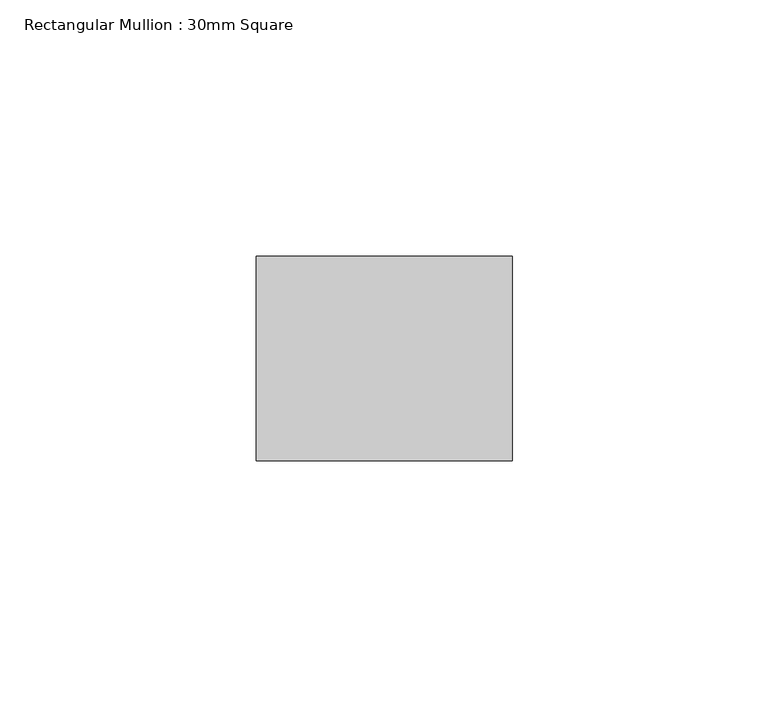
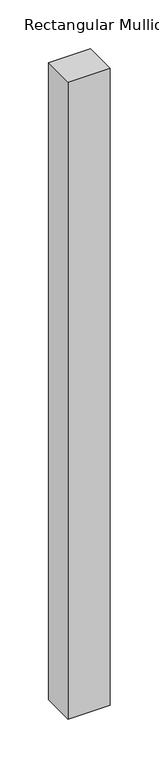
"""IFC4 building model written with IfcOpenShell, lengths in millimetres: member geometry, Rectangular Mullion : 30mm Square."""

import ifcopenshell
import ifcopenshell.guid

model = None  # the IFC model being written
_history = None  # IfcOwnerHistory: only IFC2X3 demands one
_inside = {}  # id of a spatial element -> (the spatial element, [elements in it])
_under = {}  # id of a project, library or spatial element -> (it, [spatial elements below it])
_declared = {}  # id of a project -> (the project, [libraries it declares])
_typed = {}  # id of a type object -> (the type object, [elements of that type])
_made_of = {}  # id of a material, layer set ... -> (it, [elements and type objects made of it])


def new_model(schema):
    """Start an empty IFC model of exactly this schema.

    Asked for "IFC4X3", IfcOpenShell would pick the latest addendum, in which some entities
    have other attributes; the version numbers below select the first issue.
    IFC2X3 requires an IfcOwnerHistory on every rooted entity: one is made here for all.
    """
    global model, _history
    if schema == "IFC4X3":
        model = ifcopenshell.file(schema_version=(4, 3, 0, 0))
    else:
        model = ifcopenshell.file(schema=schema)
    _inside.clear()
    _under.clear()
    _declared.clear()
    _typed.clear()
    _made_of.clear()
    _history = None
    if model.schema == "IFC2X3":
        org = make("IfcOrganization", Name="unknown")
        user = make(
            "IfcPersonAndOrganization",
            ThePerson=make("IfcPerson", FamilyName="unknown"),
            TheOrganization=org,
        )
        app = make(
            "IfcApplication",
            ApplicationDeveloper=org,
            Version="unknown",
            ApplicationFullName="unknown",
            ApplicationIdentifier="unknown",
        )
        _history = make(
            "IfcOwnerHistory",
            OwningUser=user,
            OwningApplication=app,
            ChangeAction="ADDED",
            CreationDate=0,
        )
    return model


def make(cls, **values):
    """One entity of the class cls with the attributes given. An attribute that is None is left unset."""
    return model.create_entity(
        cls, **{name: value for name, value in values.items() if value is not None}
    )


def rooted(cls, **values):
    """An entity with a GlobalId (a new one), such as an element, a storey or a relation."""
    return make(cls, GlobalId=ifcopenshell.guid.new(), OwnerHistory=_history, **values)


def si_unit(unit_type, name, prefix=None):
    """IfcSIUnit, for example si_unit("LENGTHUNIT", "METRE", prefix="MILLI")."""
    return make("IfcSIUnit", UnitType=unit_type, Prefix=prefix, Name=name)


def assignment(units):
    """IfcUnitAssignment: the units of a project."""
    return None if units is None else make("IfcUnitAssignment", Units=units)


def point(xyz):
    """IfcCartesianPoint."""
    return None if xyz is None else make("IfcCartesianPoint", Coordinates=xyz)


def direction(xyz):
    """IfcDirection."""
    return None if xyz is None else make("IfcDirection", DirectionRatios=xyz)


def frame(location, z_axis=None, x_axis=None):
    """IfcAxis2Placement3D, a coordinate frame: its origin and axes. An axis left out is left unset."""
    return make(
        "IfcAxis2Placement3D",
        Location=point(location),
        Axis=direction(z_axis),
        RefDirection=direction(x_axis),
    )


def origin():
    """The frame at (0, 0, 0) with its axes left unset."""
    return frame((0.0, 0.0, 0.0))


def place(relative_to, where):
    """IfcLocalPlacement: puts the frame where relative to a parent placement (None: the world)."""
    return make(
        "IfcLocalPlacement", PlacementRelTo=relative_to, RelativePlacement=where
    )


def context(
    kind, dimensions, precision=None, world=None, true_north=None, identifier=None
):
    """IfcGeometricRepresentationContext, for example the 3D "Model" context."""
    return make(
        "IfcGeometricRepresentationContext",
        ContextIdentifier=identifier,
        ContextType=kind,
        CoordinateSpaceDimension=dimensions,
        Precision=precision,
        WorldCoordinateSystem=world,
        TrueNorth=true_north,
    )


def project(units=None, contexts=None):
    """IfcProject with its units and contexts."""
    return rooted(
        "IfcProject",
        Name="project",
        RepresentationContexts=contexts,
        UnitsInContext=assignment(units),
    )


def spatial(cls, under=None, at=None, **own):
    """A site, building, storey or space (cls), placed at a placement, below another one or the project."""
    s = rooted(cls, ObjectPlacement=at, **own)
    if under is not None:
        _under.setdefault(under.id(), (under, []))[1].append(s)
    return s


def polyline(points):
    """IfcPolyline through the points."""
    return make("IfcPolyline", Points=[point(p) for p in points])


def outline(outer, holes=None, kind="AREA"):
    """IfcArbitraryClosedProfileDef: a profile drawn as a closed curve; with holes, ...WithVoids."""
    if holes is None:
        return make("IfcArbitraryClosedProfileDef", ProfileType=kind, OuterCurve=outer)
    return make(
        "IfcArbitraryProfileDefWithVoids",
        ProfileType=kind,
        OuterCurve=outer,
        InnerCurves=holes,
    )


def extrude(swept, where, along, depth):
    """IfcExtrudedAreaSolid: the profile swept, set in the frame where, extruded along a direction by depth."""
    return make(
        "IfcExtrudedAreaSolid",
        SweptArea=swept,
        Position=where,
        ExtrudedDirection=direction(along),
        Depth=depth,
    )


def shape(context_of_items, identifier, shape_type, items):
    """IfcShapeRepresentation: the items that make up one representation, for example the "Body"."""
    return make(
        "IfcShapeRepresentation",
        ContextOfItems=context_of_items,
        RepresentationIdentifier=identifier,
        RepresentationType=shape_type,
        Items=items,
    )


def source(mapping_origin, context_of_items, identifier, shape_type, items):
    """IfcRepresentationMap: a shape defined once, which mapped items show again and again."""
    return make(
        "IfcRepresentationMap",
        MappingOrigin=mapping_origin,
        MappedRepresentation=shape(context_of_items, identifier, shape_type, items),
    )


def transform(
    local_origin,
    x_axis=None,
    y_axis=None,
    z_axis=None,
    scale=None,
    scale2=None,
    scale3=None,
    uniform=True,
):
    """IfcCartesianTransformationOperator3D, or its non-uniform kind. x_axis, y_axis, z_axis: its Axis1, 2, 3."""
    if uniform:
        return make(
            "IfcCartesianTransformationOperator3D",
            Axis1=direction(x_axis),
            Axis2=direction(y_axis),
            LocalOrigin=point(local_origin),
            Scale=scale,
            Axis3=direction(z_axis),
        )
    return make(
        "IfcCartesianTransformationOperator3DnonUniform",
        Axis1=direction(x_axis),
        Axis2=direction(y_axis),
        LocalOrigin=point(local_origin),
        Scale=scale,
        Axis3=direction(z_axis),
        Scale2=scale2,
        Scale3=scale3,
    )


def mapped(mapping_source, mapping_target):
    """IfcMappedItem: shows the shape of a source again, moved by a transform."""
    return make(
        "IfcMappedItem", MappingSource=mapping_source, MappingTarget=mapping_target
    )


def made_of(thing, what):
    """Note that an element or type object is made of a material, layer set ...; save() writes the relation."""
    if what is not None:
        _made_of.setdefault(what.id(), (what, []))[1].append(thing)
    return thing


def element(
    cls,
    number,
    at=None,
    inside=None,
    cuts=None,
    type_object=None,
    material=None,
    context=None,
    identifier="Body",
    shape_type=None,
    held_by="IfcProductDefinitionShape",
    body=None,
    shapes=None,
    **own,
):
    """One element of the class cls, such as IfcWall. Its Tag is "e" and its number.

    at: its placement. inside: the storey or other place that contains it. cuts: it is an
    opening in that element (IfcRelVoidsElement). A single representation is given by context,
    identifier, shape_type and body (its items); several are given by shapes. held_by: the class
    of the entity that holds the representations. save() writes the other relations.
    """
    e = rooted(cls, Tag="e%d" % number, ObjectPlacement=at, **own)
    if body is not None:
        shapes = [shape(context, identifier, shape_type, body)]
    if shapes is not None:
        e.Representation = make(held_by, Representations=shapes)
    if inside is not None:
        _inside.setdefault(inside.id(), (inside, []))[1].append(e)
    if cuts is not None:
        rooted(
            "IfcRelVoidsElement", RelatingBuildingElement=cuts, RelatedOpeningElement=e
        )
    if type_object is not None:
        _typed.setdefault(type_object.id(), (type_object, []))[1].append(e)
    return made_of(e, material)


def aggregate(whole, parts):
    """IfcRelAggregates: a whole, such as a stair, and the parts it consists of."""
    return rooted("IfcRelAggregates", RelatingObject=whole, RelatedObjects=parts)


def save(model, path):
    """Write the relations noted so far, then the file.

    IfcRelAggregates (storeys below a building ...), IfcRelContainedInSpatialStructure (elements
    in a storey), IfcRelDefinesByType, IfcRelAssociatesMaterial and IfcRelDeclares: one each for
    every whole, place, type object, material and project.
    """
    for whole, parts in _under.values():
        aggregate(whole, parts)
    for where, things in _inside.values():
        rooted(
            "IfcRelContainedInSpatialStructure",
            RelatedElements=things,
            RelatingStructure=where,
        )
    for kind, things in _typed.values():
        rooted("IfcRelDefinesByType", RelatedObjects=things, RelatingType=kind)
    for what, things in _made_of.values():
        rooted("IfcRelAssociatesMaterial", RelatedObjects=things, RelatingMaterial=what)
    for by, libraries in _declared.values():
        rooted("IfcRelDeclares", RelatingContext=by, RelatedDefinitions=libraries)
    model.write(path)


def rectangular_mullion_30mm_square_79db5f72(model_context):
    return source(origin(), model_context, "Body", "SweptSolid", [
        extrude(outline(polyline([(0.0, 20.0), (0.0, -20.0), (-50.0, -20.0), (-50.0, 20.0), (0.0, 20.0)])), frame((0.0, 0.0, -798.75), z_axis=(0.0, 0.0, 1.0), x_axis=(1.0, 0.0, 0.0)), (0.0, 0.0, 1.0), 798.75),
    ])


if __name__ == "__main__":
    model = new_model("IFC4")
    model_context = context("Model", 3, world=origin())
    ifc_project = project(units=[si_unit("LENGTHUNIT", "METRE", prefix="MILLI")], contexts=[model_context])
    site = spatial("IfcSite", under=ifc_project)
    building = spatial("IfcBuilding", under=site)
    placement = place(None, origin())
    rectangular_mullion_30mm_square_shape = rectangular_mullion_30mm_square_79db5f72(model_context)
    element("IfcMember", 1, ObjectType="Rectangular Mullion : 30mm Square", at=placement, inside=building, context=model_context, shape_type="MappedRepresentation", body=[
        mapped(rectangular_mullion_30mm_square_shape, transform((0.0, 0.0, 0.0), x_axis=(1.0, 0.0, 0.0), y_axis=(0.0, 1.0, 0.0), z_axis=(0.0, 0.0, 1.0))),
    ])
    save(model, "model.ifc")
